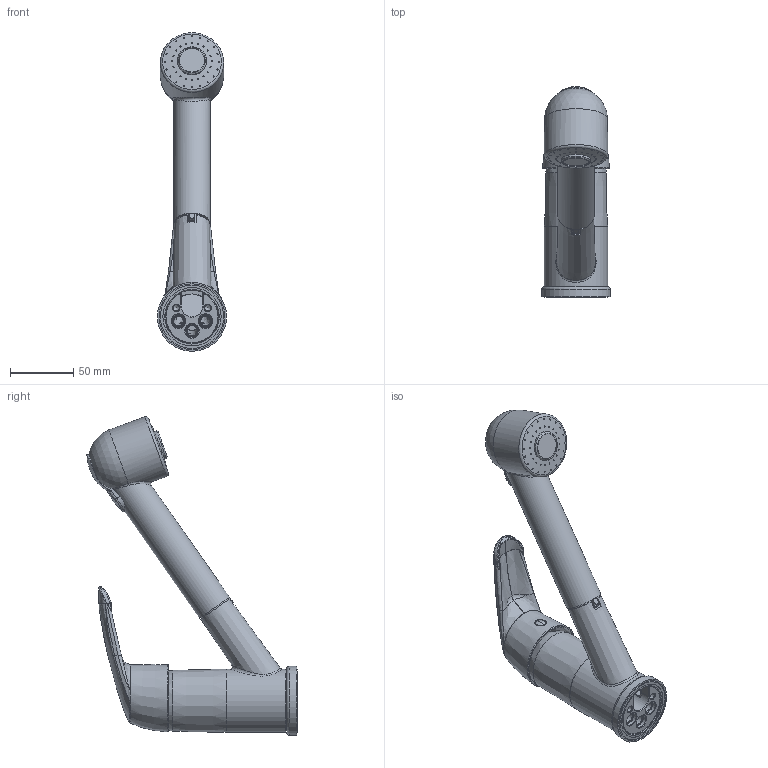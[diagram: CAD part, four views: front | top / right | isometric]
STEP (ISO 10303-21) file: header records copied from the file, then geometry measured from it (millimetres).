
FILE_DESCRIPTION(/* description */ (''),/* implementation_level */ '2;1');
FILE_NAME(/* name */ '\\Serverwts01\wts\Uff.Tecnico\3D\ASSIEMI\56551\56551.stp',/* time_stamp */ '2015-11-17T10:37:53+01:00',/* author */ ('d.mazza'),/* organization */ (''),/* preprocessor_version */ 'ST-DEVELOPER v15.2',/* originating_system */ 'Autodesk Inventor 2014',/* authorisation */ '');
FILE_SCHEMA (('AUTOMOTIVE_DESIGN { 1 0 10303 214 3 1 1 }'));
Length unit declared in the file: millimetre
Products named in the file (19): 09_090_(1); 45F7025000_Bocca per doccia estraibile35°; 86L0510000_Boccola; Antifrizione; Bicchiere copri cartuccia; Basetta per DE 42x19; 55F5305100_(1); 86D01000KX_Cartuccia senza distributore Kerox Ø40; BK40_FEDEL; K40HWSKARTARTO; K40_HWS_GYURU; 86D010DB00_Cartuccia D40 S-Distr KN Dark Blu; 86E0200000; 86I0101000; 08_362_86B1100000_Bottoncino_rosso_bluØ6; ID026CR00_DOCCIA PER MIX D.E. STILE; gomma; 84A0261000_08_095_Leva Brenta; 56551
Bounding box: 54.5 x 165.92 x 251.43 mm (x, y, z)
Volume: 368285.8 mm3; surface area: 147323.7 mm2
Topology: 18 solids, 18 shells, 2571 faces, 6846 edges, 4409 vertices
Faces by surface type: plane 1904, cylinder 278, bspline 262, torus 72, cone 44, sphere 11
Full cylindrical faces by diameter (mm): 4 x2, 4.134 x1, 4.917 x2, 5 x2, 5.2 x2, 6 x2, 7 x2, 8 x4, 8.917 x3, 9 x2, 10.7 x3, 14 x1, 20 x2, 20.9 x1, 21 x1, 21.2 x1, 23 x2, 23.3 x6, 23.308 x1, 23.9 x6, 24.15 x1, 24.8 x1, 25 x1, 25.7 x1, 25.75 x2, 25.8 x2, 26.8 x1, 27 x1, 29 x1, 33 x2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
Entity records: 92749 total; most frequent: CARTESIAN_POINT 31129, ORIENTED_EDGE 13268, DIRECTION 11425, EDGE_CURVE 6633, LINE 4843, VECTOR 4843, VERTEX_POINT 4370, AXIS2_PLACEMENT_3D 3291
